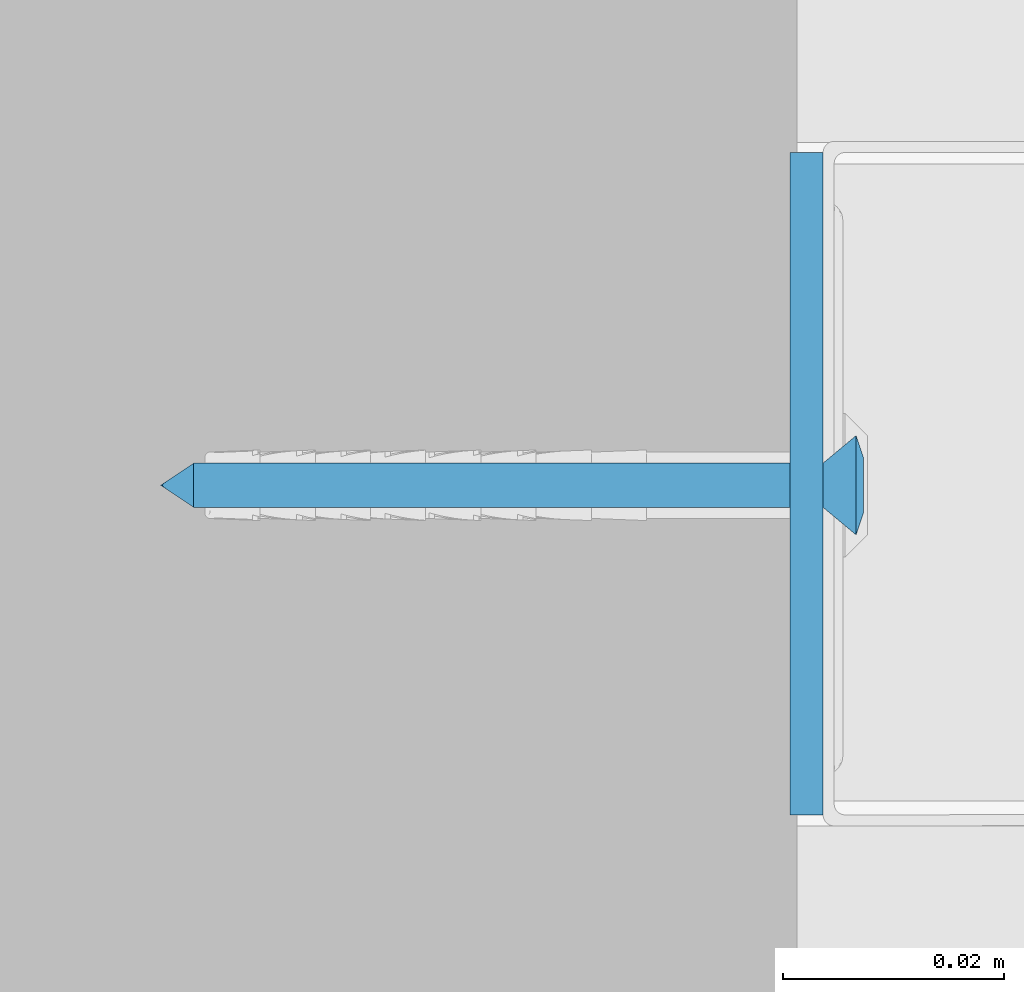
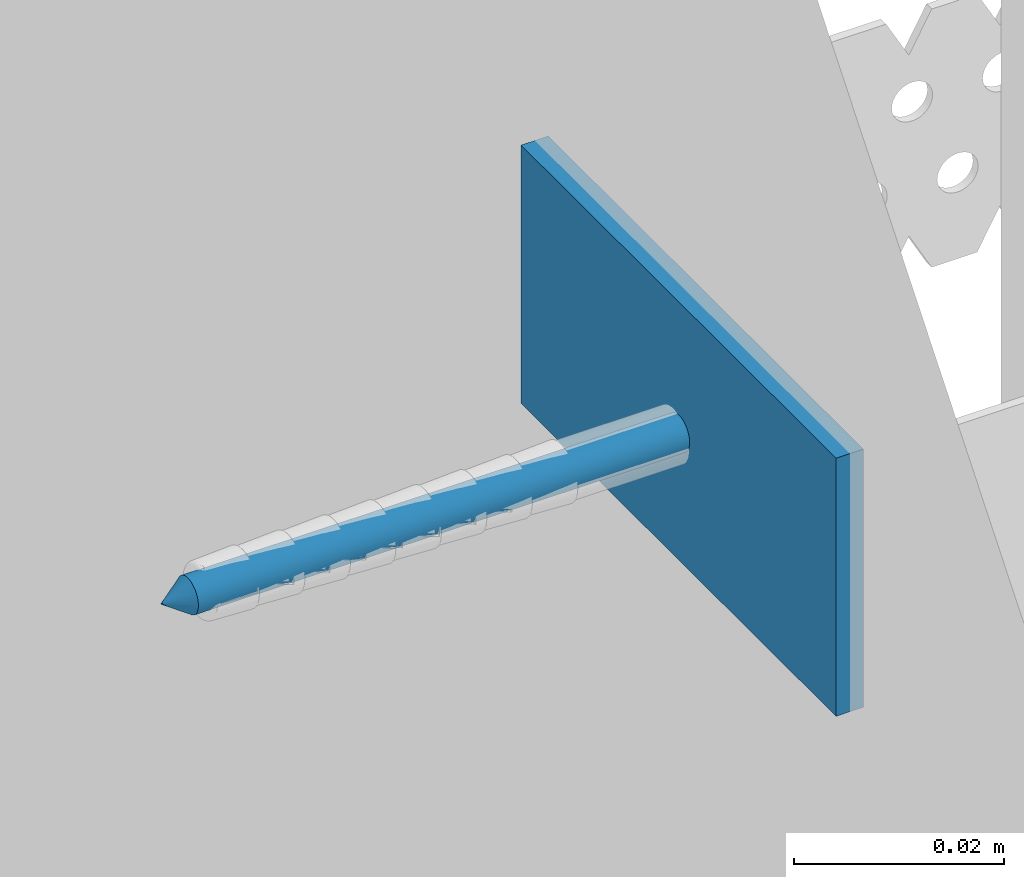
# One storey, part 62 of 62: 2 walls.
"""IFC2X3 building model written with IfcOpenShell, lengths in millimetres."""

import ifcopenshell
import ifcopenshell.guid

model = None  # the IFC model being written
_history = None  # IfcOwnerHistory: only IFC2X3 demands one
_inside = {}  # id of a spatial element -> (the spatial element, [elements in it])
_under = {}  # id of a project, library or spatial element -> (it, [spatial elements below it])
_declared = {}  # id of a project -> (the project, [libraries it declares])
_typed = {}  # id of a type object -> (the type object, [elements of that type])
_made_of = {}  # id of a material, layer set ... -> (it, [elements and type objects made of it])


def new_model(schema):
    """Start an empty IFC model of exactly this schema.

    Asked for "IFC4X3", IfcOpenShell would pick the latest addendum, in which some entities
    have other attributes; the version numbers below select the first issue.
    IFC2X3 requires an IfcOwnerHistory on every rooted entity: one is made here for all.
    """
    global model, _history
    if schema == "IFC4X3":
        model = ifcopenshell.file(schema_version=(4, 3, 0, 0))
    else:
        model = ifcopenshell.file(schema=schema)
    _inside.clear()
    _under.clear()
    _declared.clear()
    _typed.clear()
    _made_of.clear()
    _history = None
    if model.schema == "IFC2X3":
        org = make("IfcOrganization", Name="unknown")
        user = make(
            "IfcPersonAndOrganization",
            ThePerson=make("IfcPerson", FamilyName="unknown"),
            TheOrganization=org,
        )
        app = make(
            "IfcApplication",
            ApplicationDeveloper=org,
            Version="unknown",
            ApplicationFullName="unknown",
            ApplicationIdentifier="unknown",
        )
        _history = make(
            "IfcOwnerHistory",
            OwningUser=user,
            OwningApplication=app,
            ChangeAction="ADDED",
            CreationDate=0,
        )
    return model


def make(cls, **values):
    """One entity of the class cls with the attributes given. An attribute that is None is left unset."""
    return model.create_entity(
        cls, **{name: value for name, value in values.items() if value is not None}
    )


def rooted(cls, **values):
    """An entity with a GlobalId (a new one), such as an element, a storey or a relation."""
    return make(cls, GlobalId=ifcopenshell.guid.new(), OwnerHistory=_history, **values)


def si_unit(unit_type, name, prefix=None):
    """IfcSIUnit, for example si_unit("LENGTHUNIT", "METRE", prefix="MILLI")."""
    return make("IfcSIUnit", UnitType=unit_type, Prefix=prefix, Name=name)


def assignment(units):
    """IfcUnitAssignment: the units of a project."""
    return None if units is None else make("IfcUnitAssignment", Units=units)


def point(xyz):
    """IfcCartesianPoint."""
    return None if xyz is None else make("IfcCartesianPoint", Coordinates=xyz)


def direction(xyz):
    """IfcDirection."""
    return None if xyz is None else make("IfcDirection", DirectionRatios=xyz)


def frame(location, z_axis=None, x_axis=None):
    """IfcAxis2Placement3D, a coordinate frame: its origin and axes. An axis left out is left unset."""
    return make(
        "IfcAxis2Placement3D",
        Location=point(location),
        Axis=direction(z_axis),
        RefDirection=direction(x_axis),
    )


def origin_with_axes():
    """The frame at (0, 0, 0) with the z axis (0, 0, 1) and the x axis (1, 0, 0) written out."""
    return frame((0.0, 0.0, 0.0), z_axis=(0.0, 0.0, 1.0), x_axis=(1.0, 0.0, 0.0))


def place(relative_to, where):
    """IfcLocalPlacement: puts the frame where relative to a parent placement (None: the world)."""
    return make(
        "IfcLocalPlacement", PlacementRelTo=relative_to, RelativePlacement=where
    )


def context(
    kind, dimensions, precision=None, world=None, true_north=None, identifier=None
):
    """IfcGeometricRepresentationContext, for example the 3D "Model" context."""
    return make(
        "IfcGeometricRepresentationContext",
        ContextIdentifier=identifier,
        ContextType=kind,
        CoordinateSpaceDimension=dimensions,
        Precision=precision,
        WorldCoordinateSystem=world,
        TrueNorth=true_north,
    )


def subcontext(parent, identifier, kind, view, scale=None):
    """IfcGeometricRepresentationSubContext, for example "Body" below "Model"."""
    return make(
        "IfcGeometricRepresentationSubContext",
        ContextIdentifier=identifier,
        ContextType=kind,
        ParentContext=parent,
        TargetScale=scale,
        TargetView=view,
    )


def project(units=None, contexts=None):
    """IfcProject with its units and contexts."""
    return rooted(
        "IfcProject",
        Name="project",
        RepresentationContexts=contexts,
        UnitsInContext=assignment(units),
    )


def spatial(cls, under=None, at=None, **own):
    """A site, building, storey or space (cls), placed at a placement, below another one or the project."""
    s = rooted(cls, ObjectPlacement=at, **own)
    if under is not None:
        _under.setdefault(under.id(), (under, []))[1].append(s)
    return s


def faces_of(points, faces, orient=None, outer=None):
    """IfcFace entities. A face is a list of loops; a loop is a list of indices into points, from 0.

    orient and outer hold one flag for each loop. By default every Orientation is true, the
    first loop of a face is its IfcFaceOuterBound and the others are IfcFaceBound.
    """
    made = []
    for i, loops in enumerate(faces):
        bounds = []
        for j, loop in enumerate(loops):
            is_outer = j == 0 if outer is None else outer[i][j]
            bounds.append(
                make(
                    "IfcFaceOuterBound" if is_outer else "IfcFaceBound",
                    Bound=make("IfcPolyLoop", Polygon=[points[k] for k in loop]),
                    Orientation=True if orient is None else orient[i][j],
                )
            )
        made.append(make("IfcFace", Bounds=bounds))
    return made


def faceted_brep(points, faces, orient=None, outer=None, voids=None):
    """IfcFacetedBrep: a solid bounded by flat faces; with voids (closed shells), ...WithVoids."""
    shared = [point(p) for p in points]
    hull = make("IfcClosedShell", CfsFaces=faces_of(shared, faces, orient, outer))
    if voids is None:
        return make("IfcFacetedBrep", Outer=hull)
    return make(
        "IfcFacetedBrepWithVoids",
        Outer=hull,
        Voids=[
            make(cls, CfsFaces=faces_of(shared, fs, o, b)) for cls, fs, o, b in voids
        ],
    )


def shape(context_of_items, identifier, shape_type, items):
    """IfcShapeRepresentation: the items that make up one representation, for example the "Body"."""
    return make(
        "IfcShapeRepresentation",
        ContextOfItems=context_of_items,
        RepresentationIdentifier=identifier,
        RepresentationType=shape_type,
        Items=items,
    )


def material(Name=None, Category=None):
    """IfcMaterial."""
    return make("IfcMaterial", Name=Name, Category=Category)


def made_of(thing, what):
    """Note that an element or type object is made of a material, layer set ...; save() writes the relation."""
    if what is not None:
        _made_of.setdefault(what.id(), (what, []))[1].append(thing)
    return thing


def type_object(cls, material=None, **own):
    """A type object (cls), such as IfcWallType, which elements share."""
    return made_of(rooted(cls, **own), material)


def element(
    cls,
    number,
    at=None,
    inside=None,
    cuts=None,
    type_object=None,
    material=None,
    context=None,
    identifier="Body",
    shape_type=None,
    held_by="IfcProductDefinitionShape",
    body=None,
    shapes=None,
    **own,
):
    """One element of the class cls, such as IfcWall. Its Tag is "e" and its number.

    at: its placement. inside: the storey or other place that contains it. cuts: it is an
    opening in that element (IfcRelVoidsElement). A single representation is given by context,
    identifier, shape_type and body (its items); several are given by shapes. held_by: the class
    of the entity that holds the representations. save() writes the other relations.
    """
    e = rooted(cls, Tag="e%d" % number, ObjectPlacement=at, **own)
    if body is not None:
        shapes = [shape(context, identifier, shape_type, body)]
    if shapes is not None:
        e.Representation = make(held_by, Representations=shapes)
    if inside is not None:
        _inside.setdefault(inside.id(), (inside, []))[1].append(e)
    if cuts is not None:
        rooted(
            "IfcRelVoidsElement", RelatingBuildingElement=cuts, RelatedOpeningElement=e
        )
    if type_object is not None:
        _typed.setdefault(type_object.id(), (type_object, []))[1].append(e)
    return made_of(e, material)


def aggregate(whole, parts):
    """IfcRelAggregates: a whole, such as a stair, and the parts it consists of."""
    return rooted("IfcRelAggregates", RelatingObject=whole, RelatedObjects=parts)


def save(model, path):
    """Write the relations noted so far, then the file.

    IfcRelAggregates (storeys below a building ...), IfcRelContainedInSpatialStructure (elements
    in a storey), IfcRelDefinesByType, IfcRelAssociatesMaterial and IfcRelDeclares: one each for
    every whole, place, type object, material and project.
    """
    for whole, parts in _under.values():
        aggregate(whole, parts)
    for where, things in _inside.values():
        rooted(
            "IfcRelContainedInSpatialStructure",
            RelatedElements=things,
            RelatingStructure=where,
        )
    for kind, things in _typed.values():
        rooted("IfcRelDefinesByType", RelatedObjects=things, RelatingType=kind)
    for what, things in _made_of.values():
        rooted("IfcRelAssociatesMaterial", RelatedObjects=things, RelatingMaterial=what)
    for by, libraries in _declared.values():
        rooted("IfcRelDeclares", RelatingContext=by, RelatedDefinitions=libraries)
    model.write(path)


model = new_model("IFC2X3")

# Units and contexts
model_context = context("Model", 3, world=origin_with_axes())
body_context = subcontext(model_context, "Body", "Model", "MODEL_VIEW")
ifc_project = project(units=[si_unit("LENGTHUNIT", "METRE", prefix="MILLI"), si_unit("AREAUNIT", "SQUARE_METRE"), si_unit("VOLUMEUNIT", "CUBIC_METRE")], contexts=[model_context])

# Site, building, storey
site_placement = place(None, frame((2152.14102611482, -2015.0250894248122, 57.61556563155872), z_axis=(0.0, 0.0, 1.0), x_axis=(-1.1102230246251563e-16, 1.0, 0.0)))
site = spatial("IfcSite", under=ifc_project, at=site_placement, Name="Default Site", CompositionType="ELEMENT")
building_placement = place(site_placement, origin_with_axes())
building = spatial("IfcBuilding", under=site, at=building_placement, Name="Default Building", CompositionType="ELEMENT")
storey_placement = place(building_placement, origin_with_axes())
storey = spatial("IfcBuildingStorey", under=building, at=storey_placement, Name="Default Building Storey", CompositionType="ELEMENT", Elevation=57.61556563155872)

# Walls
ifc_material = material(Name="Default")
wall_type_1 = type_object("IfcWallType", Name="Kołek rozporowy min. fi 6#35", PredefinedType="NOTDEFINED")
wall_1_placement = place(storey_placement, frame((6891.176283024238, 2016.3286110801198, 3824.598905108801), z_axis=(-6.858158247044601e-13, -1.0, 7.64238051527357e-14), x_axis=(-1.6476028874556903e-11, 7.642380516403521e-14, 1.0)))
element("IfcWall", 1, at=wall_1_placement, inside=storey, type_object=wall_type_1, material=ifc_material, Name="Kołek rozporowy min. fi 6", context=body_context, shape_type="Brep", body=[
    faceted_brep([(-1438.3141994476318, 3453.2833099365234, -0.46425670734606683), (-1435.8141422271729, 3453.2833099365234, -3.464256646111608), (-1435.7895851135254, 3452.970266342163, -3.464256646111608), (-1438.2587671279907, 3452.579259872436, -0.46425670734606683), (-1435.7162714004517, 3452.6650905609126, -3.464256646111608), (-1438.093900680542, 3451.892614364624, -0.46425670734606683), (-1435.5961084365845, 3452.3751735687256, -3.464256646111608), (-1437.8236532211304, 3451.240301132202, -0.46425670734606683), (-1435.4321956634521, 3452.107667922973, -3.464256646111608), (-1437.4547004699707, 3450.6382942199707, -0.46425670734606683), (-1435.22834777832, 3451.8690109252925, -3.464256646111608), (-1436.9961023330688, 3450.101137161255, -0.46425670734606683), (-1434.9896907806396, 3451.665163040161, -3.464256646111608), (-1436.4591836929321, 3449.642658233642, -0.46425670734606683), (-1434.7221851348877, 3451.501131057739, -3.464256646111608), (-1435.8570575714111, 3449.2735862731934, -0.46425670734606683), (-1434.4321489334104, 3451.381206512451, -3.464256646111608), (-1435.2047443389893, 3449.0034580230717, -0.46425670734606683), (-1434.1269731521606, 3451.307773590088, -3.464256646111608), (-1434.5180988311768, 3448.838710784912, -0.46425670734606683), (-1433.8141679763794, 3451.28321647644, -3.464256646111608), (-1433.8141679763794, 3448.7831592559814, -0.46425670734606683), (-1433.5012435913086, 3451.307773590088, -3.464256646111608), (-1433.110237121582, 3448.838710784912, -0.46425670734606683), (-1433.1960678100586, 3451.381206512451, -3.464256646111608), (-1432.4235916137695, 3449.0034580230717, -0.46425670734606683), (-1432.9061508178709, 3451.501131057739, -3.464256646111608), (-1431.771159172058, 3449.2735862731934, -0.46425670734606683), (-1432.6385259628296, 3451.665163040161, -3.464256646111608), (-1431.1691522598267, 3449.642658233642, -0.46425670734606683), (-1432.3999881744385, 3451.8690109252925, -3.464256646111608), (-1430.6321144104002, 3450.101137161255, -0.46425670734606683), (-1432.1961402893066, 3452.107667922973, -3.464256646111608), (-1430.1735162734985, 3450.6382942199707, -0.46425670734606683), (-1432.0321083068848, 3452.3751735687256, -3.464256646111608), (-1429.8045635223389, 3451.240301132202, -0.46425670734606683), (-1431.9120645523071, 3452.6650905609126, -3.464256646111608), (-1429.5344352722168, 3451.892614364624, -0.46425670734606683), (-1431.8387508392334, 3453.5961151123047, -3.464256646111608), (-1429.369568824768, 3453.9871215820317, -0.46425670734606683), (-1429.314136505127, 3453.2833099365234, -0.46425670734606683), (-1431.814193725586, 3453.2833099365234, -3.464256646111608), (-1429.369568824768, 3452.579259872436, -0.46425670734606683), (-1431.8387508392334, 3452.970266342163, -3.464256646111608), (-1431.9120645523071, 3453.9012908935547, -3.464256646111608), (-1429.5344352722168, 3454.6737670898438, -0.46425670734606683), (-1432.0321083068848, 3454.191207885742, -3.464256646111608), (-1429.8045635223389, 3455.3260803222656, -0.46425670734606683), (-1432.1961402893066, 3454.458713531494, -3.464256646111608), (-1430.1735162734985, 3455.9283256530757, -0.46425670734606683), (-1432.3999881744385, 3454.6973705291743, -3.464256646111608), (-1430.6321144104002, 3456.465244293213, -0.46425670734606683), (-1432.6385259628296, 3454.9012184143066, -3.464256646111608), (-1431.1691522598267, 3456.923723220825, -0.46425670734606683), (-1432.9061508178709, 3455.065250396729, -3.464256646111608), (-1431.771159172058, 3457.2927951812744, -0.46425670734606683), (-1433.1960678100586, 3455.1854133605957, -3.464256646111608), (-1432.4235916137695, 3457.562923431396, -0.46425670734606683), (-1433.5012435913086, 3455.25860786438, -3.464256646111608), (-1433.110237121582, 3457.7279090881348, -0.46425670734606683), (-1433.8141679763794, 3455.283164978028, -3.464256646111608), (-1433.8141679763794, 3457.7832221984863, -0.46425670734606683), (-1434.3430995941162, 3457.7519893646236, -0.46425670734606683), (-1434.1269731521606, 3455.25860786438, -3.464256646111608), (-1434.4321489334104, 3455.1854133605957, -3.464256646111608), (-1434.8646402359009, 3457.6590061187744, -0.46425670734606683), (-1435.3716373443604, 3457.504987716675, -0.46425670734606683), (-1434.7221851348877, 3455.065250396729, -3.464256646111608), (-1435.8570575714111, 3457.2927951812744, -0.46425670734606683), (-1434.9896907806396, 3454.9012184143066, -3.464256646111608), (-1435.22834777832, 3454.6973705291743, -3.464256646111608), (-1436.3142251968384, 3457.024812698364, -0.46425670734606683), (-1436.7367029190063, 3456.705093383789, -0.46425670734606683), (-1437.118649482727, 3456.337928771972, -0.46425670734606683), (-1437.4547004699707, 3455.9283256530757, -0.46425670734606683), (-1435.4321956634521, 3454.458713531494, -3.464256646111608), (-1435.5961084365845, 3454.191207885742, -3.464256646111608), (-1437.8236532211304, 3455.3260803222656, -0.46425670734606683), (-1435.7162714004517, 3453.9012908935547, -3.464256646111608), (-1438.093900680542, 3454.6737670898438, -0.46425670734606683), (-1435.7895851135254, 3453.5961151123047, -3.464256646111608), (-1438.2587671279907, 3453.9871215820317, -0.46425670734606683), (-1434.2052936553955, 3455.752372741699, 0.20073754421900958), (-1433.8141679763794, 3455.7831287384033, 0.20073754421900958), (-1434.5866441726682, 3455.6608200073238, 0.20073754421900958), (-1434.9491596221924, 3455.510854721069, 0.20073754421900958), (-1435.2836608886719, 3455.305814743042, 0.20073754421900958), (-1435.581922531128, 3455.0509452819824, 0.20073754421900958), (-1435.836672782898, 3454.7526836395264, 0.20073754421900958), (-1436.0417127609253, 3454.418182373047, 0.20073754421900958), (-1436.1917972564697, 3454.0557861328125, 0.20073754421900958), (-1436.2833499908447, 3453.6743164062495, 0.20073754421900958), (-1436.3141059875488, 3453.2833099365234, 0.20073754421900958), (-1436.2833499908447, 3452.8920650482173, 0.20073754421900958), (-1436.1917972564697, 3452.5105953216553, 0.20073754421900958), (-1436.0417127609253, 3452.148199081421, 0.20073754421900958), (-1435.836672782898, 3451.8136978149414, 0.20073754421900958), (-1435.581922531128, 3451.5154361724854, 0.20073754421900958), (-1435.2836608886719, 3451.260566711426, 0.20073754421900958), (-1434.9491596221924, 3451.0557651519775, 0.20073754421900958), (-1434.5866441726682, 3450.905561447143, 0.20073754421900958), (-1433.4230422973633, 3450.8140087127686, 0.20073754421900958), (-1433.8141679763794, 3450.7832527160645, 0.20073754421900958), (-1434.2052936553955, 3450.8140087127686, 0.20073754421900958), (-1433.0415725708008, 3450.905561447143, 0.20073754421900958), (-1432.6791763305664, 3451.0557651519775, 0.20073754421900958), (-1432.344675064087, 3451.260566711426, 0.20073754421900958), (-1432.0464134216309, 3451.5154361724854, 0.20073754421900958), (-1431.7916631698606, 3451.8136978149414, 0.20073754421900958), (-1431.5866231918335, 3452.148199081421, 0.20073754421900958), (-1431.436538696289, 3452.5105953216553, 0.20073754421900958), (-1431.344985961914, 3452.8920650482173, 0.20073754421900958), (-1431.3141107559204, 3453.2833099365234, 0.20073754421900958), (-1431.344985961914, 3453.6743164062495, 0.20073754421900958), (-1431.436538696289, 3454.0557861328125, 0.20073754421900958), (-1431.5866231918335, 3454.418182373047, 0.20073754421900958), (-1431.7916631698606, 3454.7526836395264, 0.20073754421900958), (-1432.0464134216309, 3455.0509452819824, 0.20073754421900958), (-1432.344675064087, 3455.305814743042, 0.20073754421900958), (-1432.6791763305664, 3455.510854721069, 0.20073754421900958), (-1433.0415725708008, 3455.6608200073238, 0.20073754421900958), (-1433.4230422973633, 3455.752372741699, 0.20073754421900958), (-1433.8141679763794, 3453.2833099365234, -63.46425414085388), (-1435.7895851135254, 3452.970266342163, -60.464255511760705), (-1435.8141422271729, 3453.2833099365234, -60.464255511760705), (-1435.7162714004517, 3452.6650905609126, -60.464255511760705), (-1435.5961084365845, 3452.3751735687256, -60.464255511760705), (-1435.4321956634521, 3452.107667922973, -60.464255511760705), (-1435.22834777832, 3451.8690109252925, -60.464255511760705), (-1434.9896907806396, 3451.665163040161, -60.464255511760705), (-1434.7221851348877, 3451.501131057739, -60.464255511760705), (-1434.4321489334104, 3451.381206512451, -60.464255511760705), (-1434.1269731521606, 3451.307773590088, -60.464255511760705), (-1433.8141679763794, 3451.28321647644, -60.464255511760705), (-1433.5012435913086, 3451.307773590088, -60.464255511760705), (-1433.1960678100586, 3451.381206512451, -60.464255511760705), (-1432.9061508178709, 3451.501131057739, -60.464255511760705), (-1432.6385259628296, 3451.665163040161, -60.464255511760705), (-1432.3999881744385, 3451.8690109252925, -60.464255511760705), (-1432.1961402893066, 3452.107667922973, -60.464255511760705), (-1432.0321083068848, 3452.3751735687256, -60.464255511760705), (-1431.9120645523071, 3452.6650905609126, -60.464255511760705), (-1431.8387508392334, 3452.970266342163, -60.464255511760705), (-1431.814193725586, 3453.2833099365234, -60.464255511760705), (-1431.8387508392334, 3453.5961151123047, -60.464255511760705), (-1431.9120645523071, 3453.9012908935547, -60.464255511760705), (-1432.0321083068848, 3454.191207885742, -60.464255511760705), (-1432.1961402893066, 3454.458713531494, -60.464255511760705), (-1432.3999881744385, 3454.6973705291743, -60.464255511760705), (-1432.6385259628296, 3454.9012184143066, -60.464255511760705), (-1432.9061508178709, 3455.065250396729, -60.464255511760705), (-1433.1960678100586, 3455.1854133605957, -60.464255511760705), (-1433.5012435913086, 3455.25860786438, -60.464255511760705), (-1433.8141679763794, 3455.283164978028, -60.464255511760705), (-1434.1269731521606, 3455.25860786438, -60.464255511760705), (-1434.4321489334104, 3455.1854133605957, -60.464255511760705), (-1434.7221851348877, 3455.065250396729, -60.464255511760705), (-1434.9896907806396, 3454.9012184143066, -60.464255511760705), (-1435.22834777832, 3454.6973705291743, -60.464255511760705), (-1435.4321956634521, 3454.458713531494, -60.464255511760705), (-1435.5961084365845, 3454.191207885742, -60.464255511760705), (-1435.7162714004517, 3453.9012908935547, -60.464255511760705), (-1435.7895851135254, 3453.5961151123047, -60.464255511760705), (-1436.0417127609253, 3454.418182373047, 0.049999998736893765), (-1436.1917972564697, 3454.0557861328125, 0.049999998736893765), (-1436.2833499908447, 3453.6743164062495, 0.049999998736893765), (-1436.3141059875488, 3453.2833099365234, 0.049999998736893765), (-1436.2833499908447, 3452.8920650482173, 0.049999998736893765), (-1436.1917972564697, 3452.5105953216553, 0.049999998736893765), (-1436.0417127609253, 3452.148199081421, 0.049999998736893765), (-1435.836672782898, 3451.8136978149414, 0.049999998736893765), (-1435.581922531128, 3451.5154361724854, 0.049999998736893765), (-1435.2836608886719, 3451.260566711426, 0.049999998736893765), (-1434.9491596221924, 3451.0557651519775, 0.049999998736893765), (-1434.5866441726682, 3450.905561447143, 0.049999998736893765), (-1434.2052936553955, 3450.8140087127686, 0.049999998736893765), (-1433.8141679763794, 3450.7832527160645, 0.049999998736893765), (-1433.4230422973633, 3450.8140087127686, 0.049999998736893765), (-1433.0415725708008, 3450.905561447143, 0.049999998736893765), (-1432.6791763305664, 3451.0557651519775, 0.049999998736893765), (-1432.344675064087, 3451.260566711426, 0.049999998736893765), (-1432.0464134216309, 3451.5154361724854, 0.049999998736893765), (-1431.7916631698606, 3451.8136978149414, 0.049999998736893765), (-1431.5866231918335, 3452.148199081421, 0.049999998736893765), (-1431.436538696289, 3452.5105953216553, 0.049999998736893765), (-1431.344985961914, 3452.8920650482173, 0.049999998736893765), (-1431.3141107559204, 3453.2833099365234, 0.049999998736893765), (-1431.344985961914, 3453.6743164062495, 0.049999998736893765), (-1431.436538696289, 3454.0557861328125, 0.049999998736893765), (-1431.5866231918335, 3454.418182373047, 0.049999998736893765), (-1431.7916631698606, 3454.7526836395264, 0.049999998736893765), (-1432.0464134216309, 3455.0509452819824, 0.049999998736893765), (-1432.344675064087, 3455.305814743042, 0.049999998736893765), (-1432.6791763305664, 3455.510854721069, 0.049999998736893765), (-1433.0415725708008, 3455.6608200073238, 0.049999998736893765), (-1433.4230422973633, 3455.752372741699, 0.049999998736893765), (-1433.8141679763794, 3455.7831287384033, 0.049999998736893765), (-1434.2052936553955, 3455.752372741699, 0.049999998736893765), (-1434.5866441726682, 3455.6608200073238, 0.049999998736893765), (-1434.9491596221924, 3455.510854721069, 0.049999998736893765), (-1435.2836608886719, 3455.305814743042, 0.049999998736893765), (-1435.581922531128, 3455.0509452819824, 0.049999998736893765), (-1435.836672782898, 3454.7526836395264, 0.049999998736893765), (-1434.3141317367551, 3452.7831077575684, 0.049999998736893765), (-1435.8141422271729, 3452.7831077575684, 0.049999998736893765), (-1435.8141422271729, 3453.7832736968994, 0.049999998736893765), (-1434.3141317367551, 3453.7832736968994, 0.049999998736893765), (-1434.3141317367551, 3455.283164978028, 0.049999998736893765), (-1433.3142042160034, 3455.283164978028, 0.049999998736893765), (-1433.3142042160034, 3453.7832736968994, 0.049999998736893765), (-1431.814193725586, 3453.7832736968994, 0.049999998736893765), (-1431.814193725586, 3452.7831077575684, 0.049999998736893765), (-1433.3142042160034, 3452.7831077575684, 0.049999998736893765), (-1433.3142042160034, 3451.28321647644, 0.049999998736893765), (-1434.3141317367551, 3451.28321647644, 0.049999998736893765), (-1434.3141317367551, 3452.7831077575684, -1.799262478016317), (-1434.3141317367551, 3451.28321647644, -1.799262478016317), (-1433.3142042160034, 3451.28321647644, -1.799262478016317), (-1433.3142042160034, 3452.7831077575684, -1.799262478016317), (-1431.814193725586, 3452.7831077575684, -1.799262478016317), (-1431.814193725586, 3453.7832736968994, -1.799262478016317), (-1433.3142042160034, 3453.7832736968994, -1.799262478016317), (-1433.3142042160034, 3455.283164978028, -1.799262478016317), (-1434.3141317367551, 3455.283164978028, -1.799262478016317), (-1434.3141317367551, 3453.7832736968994, -1.799262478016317), (-1435.8141422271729, 3453.7832736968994, -1.799262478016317), (-1435.8141422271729, 3452.7831077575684, -1.799262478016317)], [[[0, 1, 2, 3]], [[4, 5, 3, 2]], [[6, 7, 5, 4]], [[7, 6, 8, 9]], [[10, 11, 9, 8]], [[11, 10, 12, 13]], [[14, 15, 13, 12]], [[16, 17, 15, 14]], [[17, 16, 18, 19]], [[20, 21, 19, 18]], [[21, 20, 22, 23]], [[24, 25, 23, 22]], [[26, 27, 25, 24]], [[27, 26, 28, 29]], [[30, 31, 29, 28]], [[31, 30, 32, 33]], [[34, 35, 33, 32]], [[36, 37, 35, 34]], [[38, 39, 40, 41]], [[41, 40, 42, 43]], [[37, 36, 43, 42]], [[44, 45, 39, 38]], [[46, 47, 45, 44]], [[47, 46, 48, 49]], [[50, 51, 49, 48]], [[51, 50, 52, 53]], [[54, 55, 53, 52]], [[56, 57, 55, 54]], [[57, 56, 58, 59]], [[60, 61, 59, 58]], [[62, 61, 63]], [[61, 60, 63]], [[63, 64, 62]], [[64, 65, 62]], [[66, 65, 64]], [[64, 67, 66]], [[67, 68, 66]], [[69, 70, 71]], [[70, 72, 71]], [[71, 68, 69]], [[68, 67, 69]], [[70, 73, 72]], [[74, 73, 75]], [[73, 70, 75]], [[76, 77, 74, 75]], [[78, 79, 77, 76]], [[79, 78, 80, 81]], [[1, 0, 81, 80]], [[82, 83, 62]], [[83, 61, 62]], [[62, 65, 82]], [[65, 84, 82]], [[66, 68, 84]], [[68, 85, 84]], [[84, 65, 66]], [[86, 85, 71]], [[85, 68, 71]], [[72, 73, 87]], [[87, 86, 72]], [[86, 71, 72]], [[88, 87, 74]], [[87, 73, 74]], [[77, 89, 88, 74]], [[79, 90, 89, 77]], [[90, 79, 81, 91]], [[0, 92, 91, 81]], [[92, 0, 3, 93]], [[5, 94, 93, 3]], [[7, 95, 94, 5]], [[95, 7, 9, 96]], [[11, 97, 96, 9]], [[97, 11, 13, 98]], [[15, 99, 98, 13]], [[17, 100, 99, 15]], [[23, 101, 102, 21]], [[21, 102, 103, 19]], [[100, 17, 19, 103]], [[25, 104, 101, 23]], [[27, 105, 104, 25]], [[105, 27, 29, 106]], [[31, 107, 106, 29]], [[107, 31, 33, 108]], [[35, 109, 108, 33]], [[37, 110, 109, 35]], [[110, 37, 42, 111]], [[40, 112, 111, 42]], [[112, 40, 39, 113]], [[45, 114, 113, 39]], [[47, 115, 114, 45]], [[115, 47, 49, 116]], [[51, 117, 116, 49]], [[117, 51, 53, 118]], [[55, 119, 118, 53]], [[57, 120, 119, 55]], [[120, 57, 59, 121]], [[61, 83, 121, 59]], [[122, 123, 124]], [[122, 125, 123]], [[122, 126, 125]], [[127, 126, 122]], [[122, 128, 127]], [[129, 128, 122]], [[122, 130, 129]], [[122, 131, 130]], [[132, 131, 122]], [[122, 133, 132]], [[134, 133, 122]], [[122, 135, 134]], [[122, 136, 135]], [[137, 136, 122]], [[122, 138, 137]], [[139, 138, 122]], [[122, 140, 139]], [[122, 141, 140]], [[142, 141, 122]], [[122, 143, 142]], [[144, 143, 122]], [[122, 145, 144]], [[122, 146, 145]], [[147, 146, 122]], [[122, 148, 147]], [[149, 148, 122]], [[122, 150, 149]], [[122, 151, 150]], [[152, 151, 122]], [[122, 153, 152]], [[154, 153, 122]], [[122, 155, 154]], [[122, 156, 155]], [[157, 156, 122]], [[122, 158, 157]], [[159, 158, 122]], [[122, 160, 159]], [[122, 161, 160]], [[162, 161, 122]], [[124, 162, 122]], [[1, 124, 123, 2]], [[125, 4, 2, 123]], [[126, 6, 4, 125]], [[6, 126, 127, 8]], [[128, 10, 8, 127]], [[10, 128, 129, 12]], [[130, 14, 12, 129]], [[131, 16, 14, 130]], [[16, 131, 132, 18]], [[133, 20, 18, 132]], [[20, 133, 134, 22]], [[135, 24, 22, 134]], [[136, 26, 24, 135]], [[26, 136, 137, 28]], [[138, 30, 28, 137]], [[30, 138, 139, 32]], [[140, 34, 32, 139]], [[141, 36, 34, 140]], [[144, 38, 41, 143]], [[143, 41, 43, 142]], [[36, 141, 142, 43]], [[145, 44, 38, 144]], [[146, 46, 44, 145]], [[46, 146, 147, 48]], [[148, 50, 48, 147]], [[50, 148, 149, 52]], [[150, 54, 52, 149]], [[151, 56, 54, 150]], [[56, 151, 152, 58]], [[153, 60, 58, 152]], [[60, 153, 154, 63]], [[155, 64, 63, 154]], [[156, 67, 64, 155]], [[67, 156, 157, 69]], [[158, 70, 69, 157]], [[70, 158, 159, 75]], [[160, 76, 75, 159]], [[161, 78, 76, 160]], [[78, 161, 162, 80]], [[124, 1, 80, 162]], [[163, 164, 165, 166, 167, 168, 169, 170, 171, 172, 173, 174, 175, 176, 177, 178, 179, 180, 181, 182, 183, 184, 185, 186, 187, 188, 189, 190, 191, 192, 193, 194, 195, 196, 197, 198, 199, 200, 201, 202], [203, 204, 205, 206, 207, 208, 209, 210, 211, 212, 213, 214]], [[187, 186, 112, 113]], [[113, 114, 188, 187]], [[114, 115, 189, 188]], [[190, 189, 115, 116]], [[116, 117, 191, 190]], [[192, 191, 117, 118]], [[118, 119, 193, 192]], [[119, 120, 194, 193]], [[195, 194, 120, 121]], [[121, 83, 196, 195]], [[197, 196, 83, 82]], [[82, 84, 198, 197]], [[84, 85, 199, 198]], [[200, 199, 85, 86]], [[86, 87, 201, 200]], [[202, 201, 87, 88]], [[88, 89, 163, 202]], [[89, 90, 164, 163]], [[92, 93, 167, 166]], [[91, 92, 166, 165]], [[165, 164, 90, 91]], [[93, 94, 168, 167]], [[94, 95, 169, 168]], [[170, 169, 95, 96]], [[96, 97, 171, 170]], [[172, 171, 97, 98]], [[98, 99, 173, 172]], [[99, 100, 174, 173]], [[175, 174, 100, 103]], [[103, 102, 176, 175]], [[177, 176, 102, 101]], [[101, 104, 178, 177]], [[104, 105, 179, 178]], [[180, 179, 105, 106]], [[106, 107, 181, 180]], [[182, 181, 107, 108]], [[108, 109, 183, 182]], [[109, 110, 184, 183]], [[185, 184, 110, 111]], [[111, 112, 186, 185]], [[215, 216, 217, 218, 219, 220, 221, 222, 223, 224, 225, 226]], [[216, 214, 213, 217]], [[215, 203, 214, 216]], [[226, 204, 203, 215]], [[225, 205, 204, 226]], [[224, 206, 205, 225]], [[223, 207, 206, 224]], [[222, 208, 207, 223]], [[221, 209, 208, 222]], [[220, 210, 209, 221]], [[219, 211, 210, 220]], [[218, 212, 211, 219]], [[217, 213, 212, 218]]]),
])
wall_type_2 = type_object("IfcWallType", Name="Taśma uszczelniająca piankowa RIGIPS szer.30mm#9", PredefinedType="NOTDEFINED")
wall_2_placement = place(storey_placement, frame((3408.037086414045, 2019.778611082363, 2405.887262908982), z_axis=(0.0, 0.0, 1.0), x_axis=(1.0, 0.0, 0.0)))
element("IfcWall", 2, at=wall_2_placement, inside=storey, type_object=wall_type_2, material=ifc_material, Name="Taśma uszczelniająca piankowa RIGIPS szer.30mm", context=body_context, shape_type="Brep", body=[
    faceted_brep([(59.99999865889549, 0.0, 4.511946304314e-12), (0.0, 0.0, 0.0), (1.0828671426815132e-12, -2.2379254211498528e-11, -29.999999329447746), (59.99999865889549, -2.2379254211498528e-11, -29.999999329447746), (0.0, 3.000000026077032, 0.0), (1.0828671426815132e-12, 3.000000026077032, -29.999999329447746), (59.99999865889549, 3.000000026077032, 0.0), (59.99999865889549, 3.000000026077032, -29.999999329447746)], [[[0, 1, 2, 3]], [[1, 4, 5, 2]], [[4, 6, 7, 5]], [[6, 0, 3, 7]], [[7, 3, 2, 5]], [[0, 6, 4, 1]]]),
])

save(model, "model.ifc")
